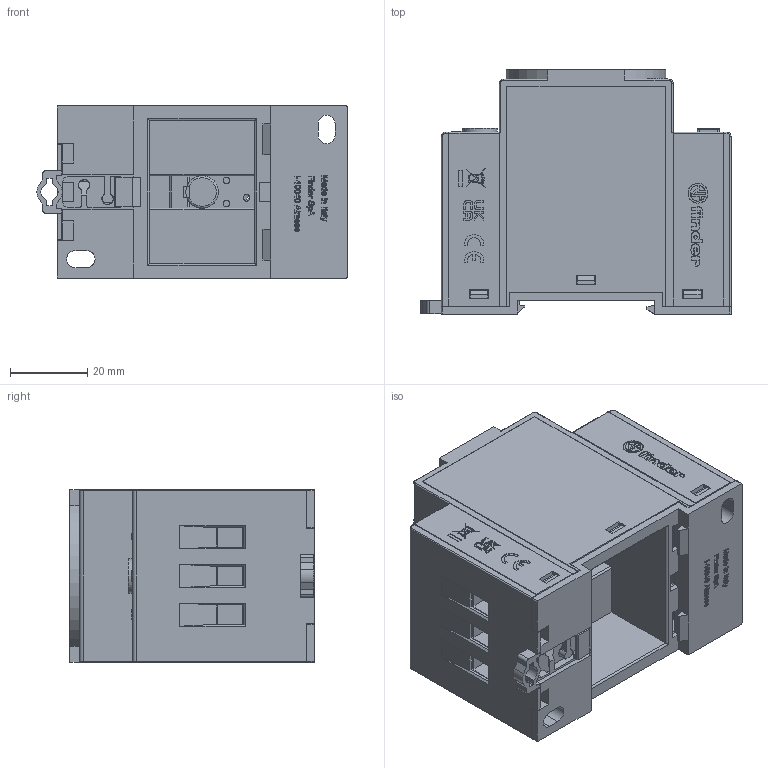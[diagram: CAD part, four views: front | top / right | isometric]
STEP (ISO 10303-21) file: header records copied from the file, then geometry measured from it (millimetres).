
FILE_DESCRIPTION(/* description */ ('Unknown'),/* implementation_level */ '2;1');
FILE_NAME(/* name */ '7U01 catalogo',/* time_stamp */ '2023-03-29T16:11:34+02:00',/* author */ ('Unknown'),/* organization */ ('Unknown'),/* preprocessor_version */ 'ST-DEVELOPER v18.102',/* originating_system */ 'Solid Edge',/* authorisation */ 'Unknown');
FILE_SCHEMA (('AUTOMOTIVE_DESIGN {1 0 10303 214 3 1 1}'));
Products named in the file (1): 7U01 catalogo
Bounding box: 80.24 x 63.3 x 45 mm (x, y, z)
Surface area: 39868.3 mm2 (no closed solid volume)
Topology: 0 solids, 58 shells, 1756 faces, 5196 edges, 3595 vertices
Faces by surface type: plane 1220, cylinder 437, bspline 65, cone 21, torus 13
Full cylindrical faces by diameter (mm): 0.417 x2, 1.7 x2, 2.428 x1, 2.671 x1, 2.95 x1, 3 x2, 4 x1, 4.8 x1, 5.212 x1, 5.5 x2, 6.1 x3, 6.9 x3, 7 x3, 8.2 x2, 8.4 x1, 9 x1
Entity records: 70450 total; most frequent: CARTESIAN_POINT 14965, ORIENTED_EDGE 9375, DIRECTION 8003, EDGE_CURVE 5154, LINE 3623, VECTOR 3623, VERTEX_POINT 3588, AXIS2_PLACEMENT_3D 2190
